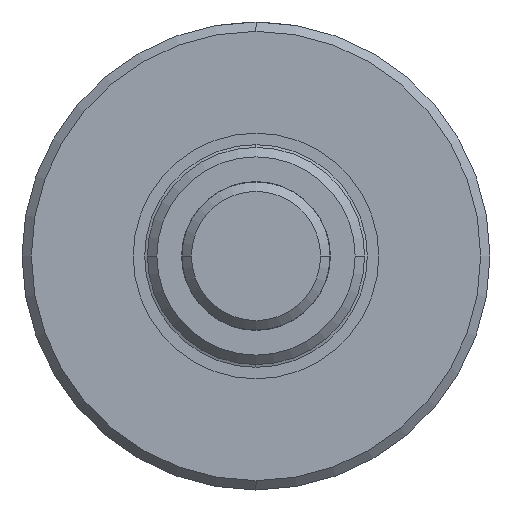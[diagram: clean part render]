
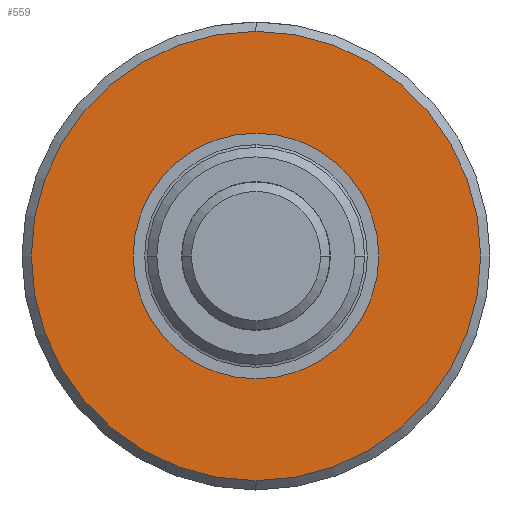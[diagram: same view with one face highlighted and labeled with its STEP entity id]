
A CAD part, front view. The second image highlights one B-rep face of the part: STEP entity #559.
In plain terms, the highlighted planar face has unit normal (0, -1, 0).
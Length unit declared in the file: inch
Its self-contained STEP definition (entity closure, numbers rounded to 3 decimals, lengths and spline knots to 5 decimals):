
#158 = CIRCLE ( 'NONE', #832, 0.82 ) ;
#195 = DIRECTION ( 'NONE',  ( 0., 1., 0. ) ) ;
#207 = DIRECTION ( 'NONE',  ( 0., 0., 1. ) ) ;
#430 = EDGE_LOOP ( 'NONE', ( #1781, #2256 ) ) ;
#460 = CARTESIAN_POINT ( 'NONE',  ( -1.07194, -0.50522, 1.79948 ) ) ;
#559 = ADVANCED_FACE ( 'NONE', ( #1853, #2322 ), #2537, .F. ) ;
#578 = AXIS2_PLACEMENT_3D ( 'NONE', #2738, #1514, #207 ) ;
#590 = CARTESIAN_POINT ( 'NONE',  ( -1.07194, -0.50522, -0.52052 ) ) ;
#594 = ORIENTED_EDGE ( 'NONE', *, *, #1326, .T. ) ;
#766 = EDGE_CURVE ( 'NONE', #809, #970, #2355, .T. ) ;
#809 = VERTEX_POINT ( 'NONE', #590 ) ;
#815 = DIRECTION ( 'NONE',  ( 0., 1., 0. ) ) ;
#832 = AXIS2_PLACEMENT_3D ( 'NONE', #1509, #195, #1713 ) ;
#900 = DIRECTION ( 'NONE',  ( 0., 1., 0. ) ) ;
#946 = CIRCLE ( 'NONE', #578, 1.5 ) ;
#970 = VERTEX_POINT ( 'NONE', #1661 ) ;
#979 = CARTESIAN_POINT ( 'NONE',  ( -1.07194, -0.50522, 0.29948 ) ) ;
#1192 = DIRECTION ( 'NONE',  ( 0., 0., 1. ) ) ;
#1252 = AXIS2_PLACEMENT_3D ( 'NONE', #2054, #815, #2251 ) ;
#1311 = VERTEX_POINT ( 'NONE', #1499 ) ;
#1326 = EDGE_CURVE ( 'NONE', #970, #809, #158, .T. ) ;
#1367 = AXIS2_PLACEMENT_3D ( 'NONE', #979, #2414, #1192 ) ;
#1386 = EDGE_LOOP ( 'NONE', ( #594, #2691 ) ) ;
#1499 = CARTESIAN_POINT ( 'NONE',  ( -1.07194, -0.50522, -1.20052 ) ) ;
#1509 = CARTESIAN_POINT ( 'NONE',  ( -1.07194, -0.50522, 0.29948 ) ) ;
#1514 = DIRECTION ( 'NONE',  ( 0., -1., 0. ) ) ;
#1661 = CARTESIAN_POINT ( 'NONE',  ( -1.07194, -0.50522, 1.11948 ) ) ;
#1713 = DIRECTION ( 'NONE',  ( 0., 0., 1. ) ) ;
#1726 = CARTESIAN_POINT ( 'NONE',  ( -1.07194, -0.50522, 0.29948 ) ) ;
#1781 = ORIENTED_EDGE ( 'NONE', *, *, #2091, .T. ) ;
#1853 = FACE_OUTER_BOUND ( 'NONE', #430, .T. ) ;
#1946 = CIRCLE ( 'NONE', #1367, 1.5 ) ;
#2054 = CARTESIAN_POINT ( 'NONE',  ( -1.07194, -0.50522, 0.29948 ) ) ;
#2091 = EDGE_CURVE ( 'NONE', #2531, #1311, #1946, .T. ) ;
#2251 = DIRECTION ( 'NONE',  ( 0., 0., 1. ) ) ;
#2256 = ORIENTED_EDGE ( 'NONE', *, *, #2416, .T. ) ;
#2322 = FACE_BOUND ( 'NONE', #1386, .T. ) ;
#2329 = DIRECTION ( 'NONE',  ( 0., 0., 1. ) ) ;
#2355 = CIRCLE ( 'NONE', #1252, 0.82 ) ;
#2414 = DIRECTION ( 'NONE',  ( 0., -1., 0. ) ) ;
#2416 = EDGE_CURVE ( 'NONE', #1311, #2531, #946, .T. ) ;
#2531 = VERTEX_POINT ( 'NONE', #460 ) ;
#2537 = PLANE ( 'NONE',  #2619 ) ;
#2619 = AXIS2_PLACEMENT_3D ( 'NONE', #1726, #900, #2329 ) ;
#2691 = ORIENTED_EDGE ( 'NONE', *, *, #766, .T. ) ;
#2738 = CARTESIAN_POINT ( 'NONE',  ( -1.07194, -0.50522, 0.29948 ) ) ;
